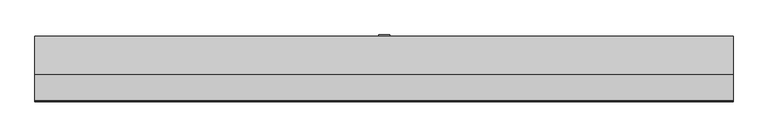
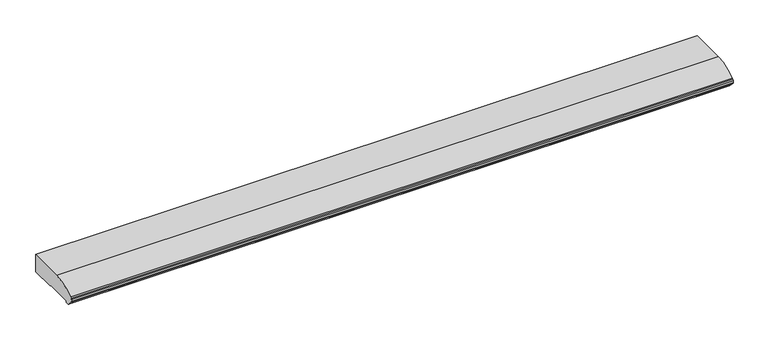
"""IFC4 building model written with IfcOpenShell, lengths in millimetres: furniture geometry, Steelcase - Answer Solution - Lighting - Bottomline Shelf Light : With Daisy Chain Cord - 46 3/4W."""

from ifc_helpers import new_model, si_unit, point, frame, frame_2d, origin, place, context, project, spatial, polyline, circle_curve, trimmed, segment, composite_curve, outline, extrude, source, transform, mapped, element, save


def furniture_6e175020(model_context):
    return source(origin(), model_context, "Body", "SweptSolid", [
        extrude(outline(polyline([(104.456825, 1278.001062), (101.9168184, 1278.001062), (101.9168184, 1275.8796799), (94.2968256, 1275.8796799), (94.2968256, 1278.001062), (91.756819, 1278.001062), (91.756819, 1280.4435676), (104.456825, 1280.4435676), (104.456825, 1278.001062)])), frame((-9.2714311, 0.0, 0.0), z_axis=(1.0, 0.0, 0.0), x_axis=(0.0, 1.0, 0.0)), (0.0, 0.0, 1.0), 19.05),
        extrude(outline(polyline([(9.7785689, 126.0468221), (9.7785689, 123.506825), (-9.2714311, 123.506825), (-9.2714311, 126.0468221), (9.7785689, 126.0468221)])), frame((0.0, 0.0, 1301.4509122), z_axis=(0.0, 0.0, 1.0), x_axis=(1.0, 0.0, 0.0)), (0.0, 0.0, 1.0), 8.9350878),
        extrude(outline(composite_curve([segment(polyline([(58.3812977, 1313.5609554), (123.506825, 1313.5609554), (123.506825, 1280.4435676), (79.056825, 1280.4435676), (79.056825, 1283.0809845), (28.2568216, 1283.0809845), (28.2568216, 1280.541), (21.9068453, 1280.541), (13.476352, 1288.9714933)]), True, "CONTINUOUS"), segment(trimmed(circle_curve(frame_2d((16.4253859, 1291.9205272)), 4.1705637), [point((13.476352, 1288.9714933))], [point((12.2548221, 1291.9205272))], False, "CARTESIAN"), True, "CONTINUOUS"), segment(polyline([(12.2548221, 1291.9205272), (12.2548221, 1295.401678)]), True, "CONTINUOUS"), segment(trimmed(circle_curve(frame_2d((14.6623612, 1295.401678)), 2.407539), [point((12.2548221, 1295.401678))], [point((13.3471912, 1297.4182524))], False, "CARTESIAN"), True, "CONTINUOUS"), segment(trimmed(circle_curve(frame_2d((-7.9940104, 1330.1411108)), 39.0670238), [point((13.3471912, 1297.4182524))], [point((15.1696915, 1298.6820062))], True, "CARTESIAN"), True, "CONTINUOUS"), segment(trimmed(circle_curve(frame_2d((60.566323, 1237.0278984)), 76.564242), [point((15.1696915, 1298.6820062))], [point((58.3812977, 1313.5609554))], False, "CARTESIAN"), True, "CONTINUOUS")], self_intersect=False)), frame((-593.7254311, 0.0, 0.0), z_axis=(1.0, 0.0, 0.0), x_axis=(0.0, 1.0, 0.0)), (0.0, 0.0, 1.0), 1187.45),
    ])


if __name__ == "__main__":
    model = new_model("IFC4")
    model_context = context("Model", 3, world=origin())
    ifc_project = project(units=[si_unit("LENGTHUNIT", "METRE", prefix="MILLI")], contexts=[model_context])
    site = spatial("IfcSite", under=ifc_project)
    building = spatial("IfcBuilding", under=site)
    placement = place(None, origin())
    furniture_shape = furniture_6e175020(model_context)
    element("IfcFurniture", 1, ObjectType="Steelcase - Answer Solution - Lighting - Bottomline Shelf Light : With Daisy Chain Cord - 46 3/4W", at=placement, inside=building, context=model_context, shape_type="MappedRepresentation", body=[
        mapped(furniture_shape, transform((0.0, 0.0, 0.0), x_axis=(1.0, 0.0, 0.0), y_axis=(0.0, 1.0, 0.0), z_axis=(0.0, 0.0, 1.0))),
    ])
    save(model, "model.ifc")
